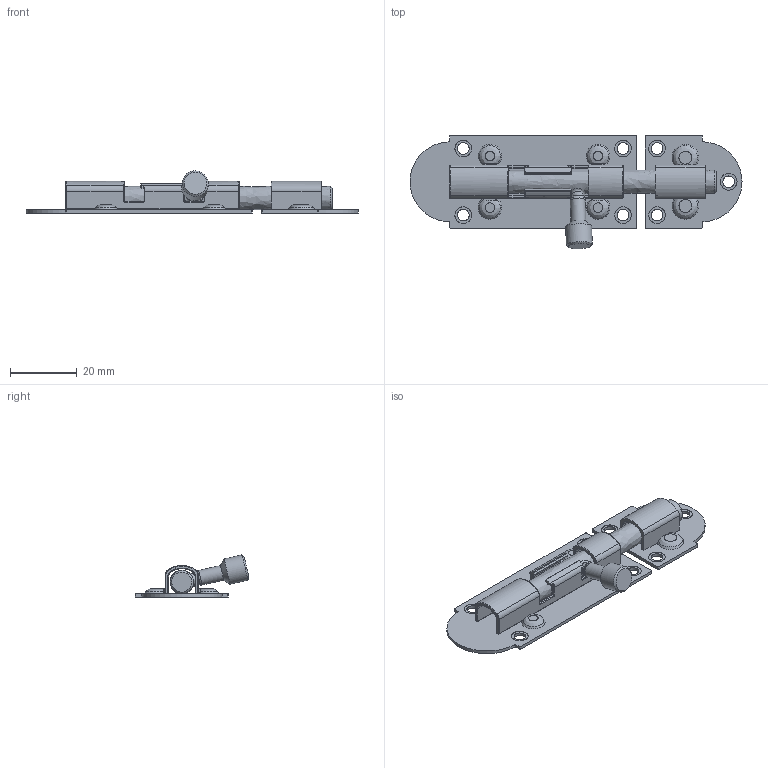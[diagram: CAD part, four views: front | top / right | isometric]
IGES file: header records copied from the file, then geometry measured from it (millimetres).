
Global section: file name: DR_ODS3-4; native system: Autodesk Inventor 2015; preprocessor: unknown; author: Administrator; date: 20170904.085510; units: millimetre
Bounding box: 99.72 x 34.12 x 12.65 mm (x, y, z)
Volume: 6877.1 mm3; surface area: 10184.5 mm2
Topology: 5 solids, 5 shells, 573 faces, 1420 edges, 863 vertices
Faces by surface type: bspline 573
